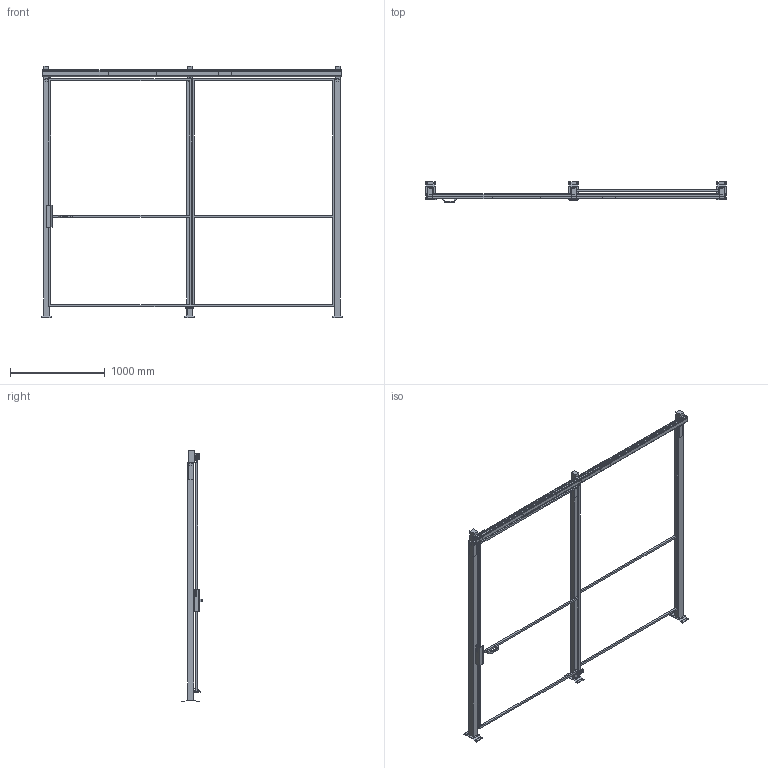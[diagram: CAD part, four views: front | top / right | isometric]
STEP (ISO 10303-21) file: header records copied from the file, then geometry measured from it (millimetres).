
FILE_DESCRIPTION(/* description */ (''),/* implementation_level */ '2;1');
FILE_NAME(/* name */ 'C:\SafeGuarding\ELABORATI\VZOR§POSUVNE_2025-02-05-13-38-07.stp',/* time_stamp */ '2025-02-05T13:38:10+01:00',/* author */ ('admin'),/* organization */ (''),/* preprocessor_version */ 'ST-DEVELOPER v18.1',/* originating_system */ 'AutoCAD Mechanical',/* authorisation */ '');
FILE_SCHEMA (('AUTOMOTIVE_DESIGN { 1 0 10303 214 3 1 1 }'));
Length unit declared in the file: millimetre
Products named in the file (4): Product; VFPA.REPE2015002400; DATI_PORTA; P_VFMA.ME60SDU.2520
Assembly tree (6 placements, depth 2):
  Product
    P_VFMA.ME60SDU.2520  x3
    VFPA.REPE2015002400  x2
    DATI_PORTA
Bounding box: 3170 x 219.95 x 2654 mm (x, y, z)
Volume: 42607469.2 mm3; surface area: 5518578.4 mm2
Topology: 28 solids, 39 shells, 484 faces, 1658 edges, 1589 vertices
Faces by surface type: plane 442, cylinder 40, sphere 2
Full cylindrical faces by diameter (mm): 11 x12, 12 x2, 15 x4, 40 x4
Entity records: 12993 total; most frequent: CARTESIAN_POINT 2752, DIRECTION 1959, ORIENTED_EDGE 1902, EDGE_CURVE 1000, LINE 967, VECTOR 967, VERTEX_POINT 708, AXIS2_PLACEMENT_3D 496
